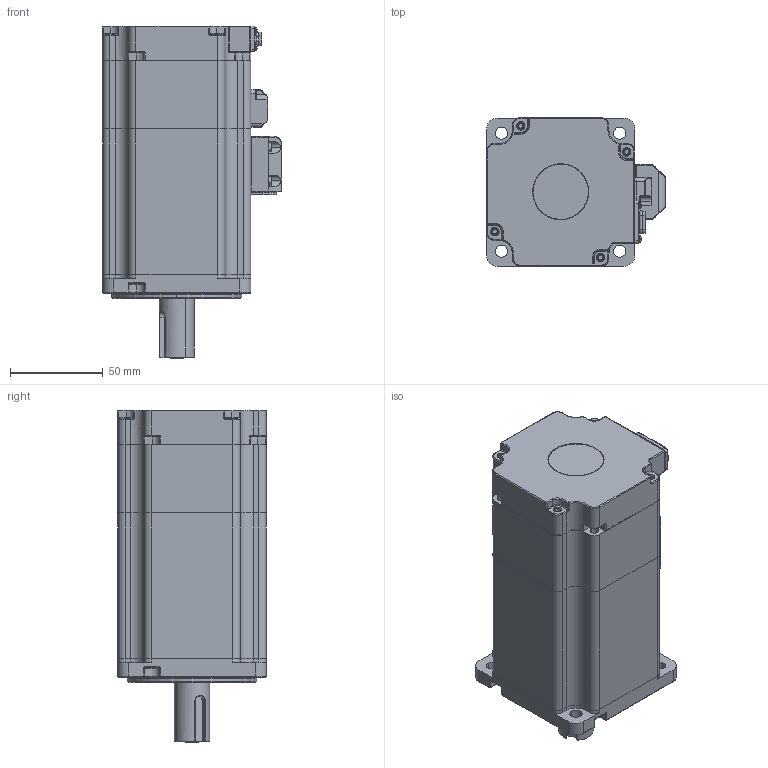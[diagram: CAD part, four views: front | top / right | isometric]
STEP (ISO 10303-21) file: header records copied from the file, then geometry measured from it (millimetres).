
FILE_DESCRIPTION (( 'STEP AP214' ), '1' );
FILE_NAME ('750W低压电机 带刹车(插座式).STEP', '2023-07-03T02:15:58', ( '' ), ( '' ), 'SwSTEP 2.0', 'SolidWorks 2014', '' );
FILE_SCHEMA (( 'AUTOMOTIVE_DESIGN' ));
Length unit declared in the file: millimetre
Products named in the file (15): 前轴承 GB／T276-94深沟球轴承6004-2Z_1; SC40陔晤鎢ん瑤脣釱sc-mc7p-a6-zhichuxianchazuo; 揤盄裔躇猾菜-11.4; 蚐猾 D00B999YF5-TC 20-30-5-1; 750W低压电机 带刹车(插座式); GB_CROSS_SCREWS_TYPE3 M2.5X12-12-C_GB_CROSS_SCREWS_TYPE3 M2.5X12-12-C_1_2; 750w儂褲-辿盄宒_1_1; 后轴承 GB／T276-94深沟球轴承6002-2Z_1; 低压电机动力压线盖_1_2; 80#陔ヶ傷裔 - 萵掛_1; 40#价陬堤盄揤盄裔; 80-晤鎢ん欶; 80#陔粣-750W-价陬粣 - 腴揤_1; 80#陔綴傷裔-价陬遴; 80#陔晤鎢ん欶
Assembly tree (17 placements, depth 3):
  750W低压电机 带刹车(插座式)
    750w儂褲-辿盄宒_1_1
    低压电机动力压线盖_1_2
    GB_CROSS_SCREWS_TYPE3 M2.5X12-12-C_GB_CROSS_SCREWS_TYPE3 M2.5X12-12-C_1_2  x4
    80#陔ヶ傷裔 - 萵掛_1
    后轴承 GB／T276-94深沟球轴承6002-2Z_1
    前轴承 GB／T276-94深沟球轴承6004-2Z_1
    揤盄裔躇猾菜-11.4
    80#陔綴傷裔-价陬遴
    80#陔粣-750W-价陬粣 - 腴揤_1
    40#价陬堤盄揤盄裔
    蚐猾 D00B999YF5-TC 20-30-5-1
    80-晤鎢ん欶
      80#陔晤鎢ん欶
      SC40陔晤鎢ん瑤脣釱sc-mc7p-a6-zhichuxianchazuo
Bounding box: 96.5 x 80 x 179 mm (x, y, z)
Volume: 331003.7 mm3; surface area: 163382.9 mm2
Topology: 25 solids, 25 shells, 3375 faces, 8646 edges, 5236 vertices
Faces by surface type: cylinder 1219, plane 1187, bspline 508, torus 183, cone 159, sphere 119
Entity records: 160219 total; most frequent: CARTESIAN_POINT 46680, ORIENTED_EDGE 16594, DIRECTION 15379, EDGE_CURVE 8297, AXIS2_PLACEMENT_3D 5688, VERTEX_POINT 5091, LINE 4003, VECTOR 4003
